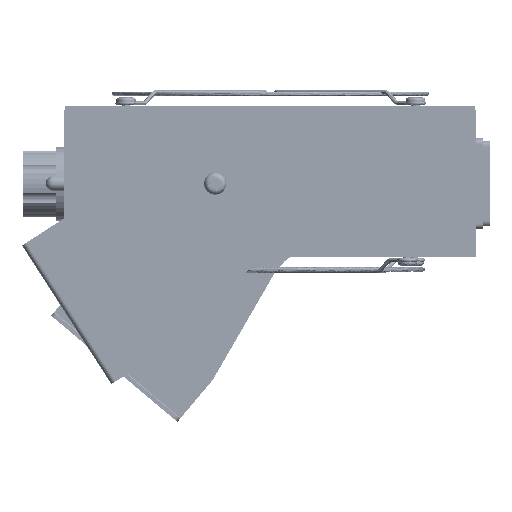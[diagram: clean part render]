
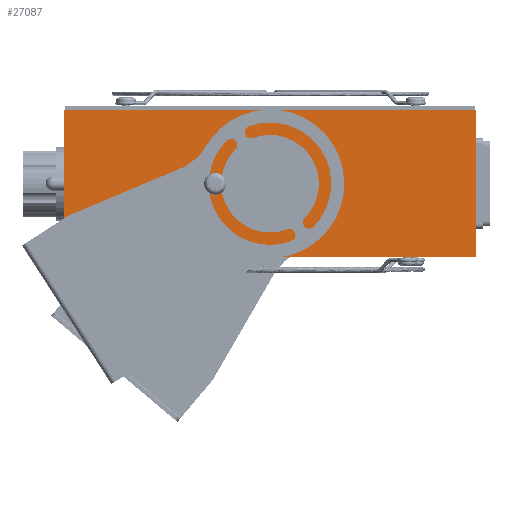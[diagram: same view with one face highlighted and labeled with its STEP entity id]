
A CAD part, front view. The second image highlights one B-rep face of the part: STEP entity #27087.
In plain terms, the highlighted planar face has unit normal (0, -1, 0).
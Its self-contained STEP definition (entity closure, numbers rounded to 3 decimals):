
#25 = CARTESIAN_POINT ( 'NONE',  ( 150., 0., 53.5 ) ) ;
#364 = EDGE_CURVE ( 'NONE', #23264, #28866, #35574, .T. ) ;
#734 = FACE_OUTER_BOUND ( 'NONE', #41850, .T. ) ;
#1257 = CARTESIAN_POINT ( 'NONE',  ( 75., 0., 26.75 ) ) ;
#2825 = CARTESIAN_POINT ( 'NONE',  ( 55., 0., 30.75 ) ) ;
#3637 = ORIENTED_EDGE ( 'NONE', *, *, #364, .F. ) ;
#3870 = CARTESIAN_POINT ( 'NONE',  ( 150., 0., 53.5 ) ) ;
#4781 = CARTESIAN_POINT ( 'NONE',  ( 0., 0., 0. ) ) ;
#5035 = CIRCLE ( 'NONE', #38706, 4. ) ;
#5104 = DIRECTION ( 'NONE',  ( 0., 0., -1. ) ) ;
#5251 = CARTESIAN_POINT ( 'NONE',  ( 75., 0., 13.75 ) ) ;
#6354 = ORIENTED_EDGE ( 'NONE', *, *, #36070, .T. ) ;
#6392 = VERTEX_POINT ( 'NONE', #35749 ) ;
#6462 = AXIS2_PLACEMENT_3D ( 'NONE', #1257, #26470, #33528 ) ;
#7484 = DIRECTION ( 'NONE',  ( 1., 0., 0. ) ) ;
#9140 = VECTOR ( 'NONE', #39687, 1000. ) ;
#9865 = CARTESIAN_POINT ( 'NONE',  ( 55., 0., 22.75 ) ) ;
#10307 = CARTESIAN_POINT ( 'NONE',  ( 55., 0., 26.75 ) ) ;
#10753 = CARTESIAN_POINT ( 'NONE',  ( 0., 0., 53.5 ) ) ;
#10769 = EDGE_LOOP ( 'NONE', ( #30935, #31459 ) ) ;
#10875 = ORIENTED_EDGE ( 'NONE', *, *, #31020, .F. ) ;
#11122 = CARTESIAN_POINT ( 'NONE',  ( 0., 0., 53.5 ) ) ;
#11204 = EDGE_LOOP ( 'NONE', ( #10875, #38216 ) ) ;
#11554 = ORIENTED_EDGE ( 'NONE', *, *, #24248, .T. ) ;
#11768 = EDGE_CURVE ( 'NONE', #20158, #14882, #42834, .T. ) ;
#12585 = LINE ( 'NONE', #15639, #37624 ) ;
#13402 = CARTESIAN_POINT ( 'NONE',  ( 75., 0., 26.75 ) ) ;
#14882 = VERTEX_POINT ( 'NONE', #9865 ) ;
#14961 = DIRECTION ( 'NONE',  ( 0., 1., 0. ) ) ;
#15639 = CARTESIAN_POINT ( 'NONE',  ( 0., 0., 53.5 ) ) ;
#16446 = DIRECTION ( 'NONE',  ( 0., 1., 0. ) ) ;
#20158 = VERTEX_POINT ( 'NONE', #2825 ) ;
#21003 = VECTOR ( 'NONE', #5104, 1000. ) ;
#21435 = VERTEX_POINT ( 'NONE', #40879 ) ;
#21693 = EDGE_CURVE ( 'NONE', #14882, #20158, #5035, .T. ) ;
#23264 = VERTEX_POINT ( 'NONE', #3870 ) ;
#23626 = CIRCLE ( 'NONE', #6462, 13. ) ;
#24248 = EDGE_CURVE ( 'NONE', #21435, #6392, #38777, .T. ) ;
#25086 = CARTESIAN_POINT ( 'NONE',  ( 150., 0., 0. ) ) ;
#25105 = EDGE_CURVE ( 'NONE', #30714, #29124, #33874, .T. ) ;
#26447 = VECTOR ( 'NONE', #26514, 1000. ) ;
#26470 = DIRECTION ( 'NONE',  ( 0., -1., 0. ) ) ;
#26514 = DIRECTION ( 'NONE',  ( 1., 0., 0. ) ) ;
#27087 = ADVANCED_FACE ( 'NONE', ( #32287, #734, #36513 ), #39564, .F. ) ;
#27857 = AXIS2_PLACEMENT_3D ( 'NONE', #13402, #34287, #30743 ) ;
#28766 = DIRECTION ( 'NONE',  ( 0., 1., 0. ) ) ;
#28866 = VERTEX_POINT ( 'NONE', #25086 ) ;
#29124 = VERTEX_POINT ( 'NONE', #40487 ) ;
#29936 = DIRECTION ( 'NONE',  ( 1., 0., 0. ) ) ;
#30714 = VERTEX_POINT ( 'NONE', #5251 ) ;
#30743 = DIRECTION ( 'NONE',  ( 0., 0., 1. ) ) ;
#30935 = ORIENTED_EDGE ( 'NONE', *, *, #11768, .T. ) ;
#31020 = EDGE_CURVE ( 'NONE', #29124, #30714, #23626, .T. ) ;
#31459 = ORIENTED_EDGE ( 'NONE', *, *, #21693, .T. ) ;
#32287 = FACE_BOUND ( 'NONE', #10769, .T. ) ;
#32881 = ORIENTED_EDGE ( 'NONE', *, *, #34412, .F. ) ;
#33528 = DIRECTION ( 'NONE',  ( 0., 0., 1. ) ) ;
#33874 = CIRCLE ( 'NONE', #27857, 13. ) ;
#34287 = DIRECTION ( 'NONE',  ( 0., -1., 0. ) ) ;
#34412 = EDGE_CURVE ( 'NONE', #21435, #23264, #12585, .T. ) ;
#34709 = DIRECTION ( 'NONE',  ( 0., 0., 1. ) ) ;
#35374 = AXIS2_PLACEMENT_3D ( 'NONE', #10307, #14961, #36966 ) ;
#35574 = LINE ( 'NONE', #25, #21003 ) ;
#35749 = CARTESIAN_POINT ( 'NONE',  ( 0., 0., 0. ) ) ;
#36070 = EDGE_CURVE ( 'NONE', #6392, #28866, #36855, .T. ) ;
#36513 = FACE_BOUND ( 'NONE', #11204, .T. ) ;
#36855 = LINE ( 'NONE', #4781, #26447 ) ;
#36966 = DIRECTION ( 'NONE',  ( 0., 0., 1. ) ) ;
#37624 = VECTOR ( 'NONE', #29936, 1000. ) ;
#38216 = ORIENTED_EDGE ( 'NONE', *, *, #25105, .F. ) ;
#38706 = AXIS2_PLACEMENT_3D ( 'NONE', #44999, #16446, #34709 ) ;
#38777 = LINE ( 'NONE', #11122, #9140 ) ;
#39564 = PLANE ( 'NONE',  #41667 ) ;
#39687 = DIRECTION ( 'NONE',  ( 0., 0., -1. ) ) ;
#40487 = CARTESIAN_POINT ( 'NONE',  ( 75., 0., 39.75 ) ) ;
#40879 = CARTESIAN_POINT ( 'NONE',  ( 0., 0., 53.5 ) ) ;
#41667 = AXIS2_PLACEMENT_3D ( 'NONE', #10753, #28766, #7484 ) ;
#41850 = EDGE_LOOP ( 'NONE', ( #11554, #6354, #3637, #32881 ) ) ;
#42834 = CIRCLE ( 'NONE', #35374, 4. ) ;
#44999 = CARTESIAN_POINT ( 'NONE',  ( 55., 0., 26.75 ) ) ;
